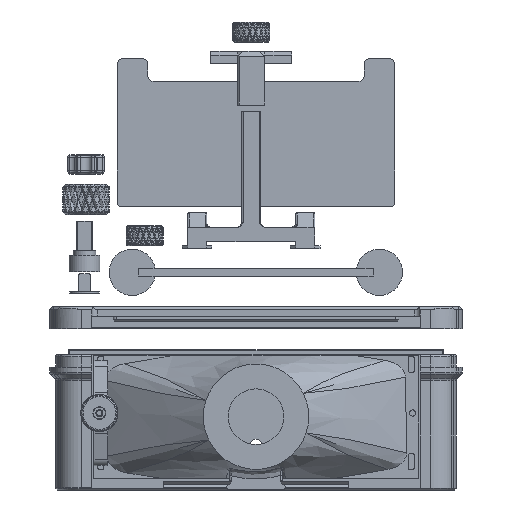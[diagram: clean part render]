
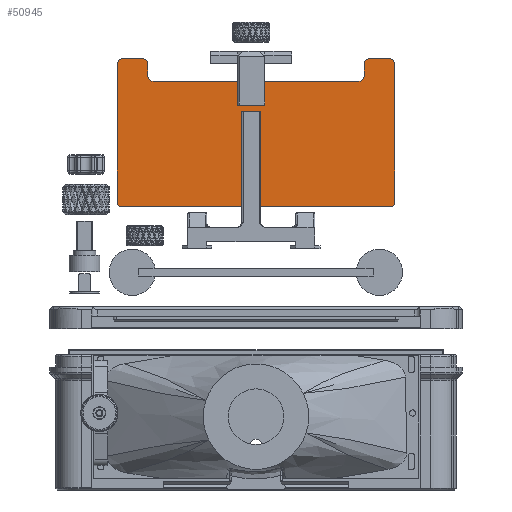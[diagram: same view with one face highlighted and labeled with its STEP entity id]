
A CAD part, left-side view. The second image highlights one B-rep face of the part: STEP entity #50945.
In plain terms, the highlighted planar face has unit normal (-1, 0, 0).
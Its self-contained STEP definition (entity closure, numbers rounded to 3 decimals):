
#5202=PLANE($,#55550);
#8142=FACE_OUTER_BOUND($,#11535,.T.);
#11535=EDGE_LOOP($,(#45359,#45360,#45361,#45362,#45363,#45364,#45365,#45366,
#45367,#45368,#45369,#45370,#45371,#45372,#45373,#45374));
#15141=LINE($,#93607,#18751);
#15151=LINE($,#93643,#18761);
#15155=LINE($,#93653,#18765);
#15158=LINE($,#93661,#18768);
#15160=LINE($,#93667,#18770);
#15163=LINE($,#93675,#18773);
#15166=LINE($,#93684,#18776);
#15168=LINE($,#93689,#18778);
#18751=VECTOR($,#67526,17.55);
#18761=VECTOR($,#67558,8.976);
#18765=VECTOR($,#67568,0.7);
#18768=VECTOR($,#67577,1.175);
#18770=VECTOR($,#67585,8.976);
#18773=VECTOR($,#67594,13.2);
#18776=VECTOR($,#67603,1.175);
#18778=VECTOR($,#67611,0.7);
#20398=CIRCLE($,#55519,0.2);
#20406=CIRCLE($,#55530,0.2);
#20407=CIRCLE($,#55533,0.4);
#20408=CIRCLE($,#55536,0.4);
#20409=CIRCLE($,#55539,0.4);
#20410=CIRCLE($,#55542,0.4);
#20411=CIRCLE($,#55545,0.4);
#20412=CIRCLE($,#55548,0.4);
#24491=VERTEX_POINT($,#93597);
#24492=VERTEX_POINT($,#93599);
#24494=VERTEX_POINT($,#93605);
#24508=VERTEX_POINT($,#93637);
#24509=VERTEX_POINT($,#93641);
#24510=VERTEX_POINT($,#93645);
#24511=VERTEX_POINT($,#93647);
#24512=VERTEX_POINT($,#93651);
#24513=VERTEX_POINT($,#93655);
#24514=VERTEX_POINT($,#93659);
#24515=VERTEX_POINT($,#93663);
#24516=VERTEX_POINT($,#93669);
#24517=VERTEX_POINT($,#93671);
#24518=VERTEX_POINT($,#93677);
#24519=VERTEX_POINT($,#93678);
#24520=VERTEX_POINT($,#93683);
#31500=EDGE_CURVE($,#24491,#24492,#20398,.T.);
#31504=EDGE_CURVE($,#24494,#24491,#15141,.T.);
#31519=EDGE_CURVE($,#24508,#24494,#20406,.T.);
#31522=EDGE_CURVE($,#24509,#24508,#15151,.T.);
#31524=EDGE_CURVE($,#24510,#24511,#20407,.T.);
#31527=EDGE_CURVE($,#24510,#24512,#15155,.T.);
#31529=EDGE_CURVE($,#24513,#24512,#20408,.T.);
#31531=EDGE_CURVE($,#24514,#24513,#15158,.F.);
#31532=EDGE_CURVE($,#24515,#24514,#20409,.T.);
#31534=EDGE_CURVE($,#24515,#24492,#15160,.F.);
#31536=EDGE_CURVE($,#24516,#24517,#20410,.T.);
#31538=EDGE_CURVE($,#24516,#24511,#15163,.T.);
#31539=EDGE_CURVE($,#24518,#24519,#20411,.T.);
#31542=EDGE_CURVE($,#24519,#24520,#15166,.F.);
#31544=EDGE_CURVE($,#24520,#24509,#20412,.T.);
#31545=EDGE_CURVE($,#24518,#24517,#15168,.T.);
#45359=ORIENTED_EDGE($,*,*,#31500,.F.);
#45360=ORIENTED_EDGE($,*,*,#31504,.F.);
#45361=ORIENTED_EDGE($,*,*,#31519,.F.);
#45362=ORIENTED_EDGE($,*,*,#31522,.F.);
#45363=ORIENTED_EDGE($,*,*,#31544,.F.);
#45364=ORIENTED_EDGE($,*,*,#31542,.F.);
#45365=ORIENTED_EDGE($,*,*,#31539,.F.);
#45366=ORIENTED_EDGE($,*,*,#31545,.T.);
#45367=ORIENTED_EDGE($,*,*,#31536,.F.);
#45368=ORIENTED_EDGE($,*,*,#31538,.T.);
#45369=ORIENTED_EDGE($,*,*,#31524,.F.);
#45370=ORIENTED_EDGE($,*,*,#31527,.T.);
#45371=ORIENTED_EDGE($,*,*,#31529,.F.);
#45372=ORIENTED_EDGE($,*,*,#31531,.F.);
#45373=ORIENTED_EDGE($,*,*,#31532,.F.);
#45374=ORIENTED_EDGE($,*,*,#31534,.T.);
#50945=ADVANCED_FACE($,(#8142),#5202,.F.);
#55519=AXIS2_PLACEMENT_3D($,#93600,#67519,#67520);
#55530=AXIS2_PLACEMENT_3D($,#93638,#67552,#67553);
#55533=AXIS2_PLACEMENT_3D($,#93648,#67562,#67563);
#55536=AXIS2_PLACEMENT_3D($,#93657,#67572,#67573);
#55539=AXIS2_PLACEMENT_3D($,#93664,#67580,#67581);
#55542=AXIS2_PLACEMENT_3D($,#93672,#67589,#67590);
#55545=AXIS2_PLACEMENT_3D($,#93679,#67597,#67598);
#55548=AXIS2_PLACEMENT_3D($,#93687,#67607,#67608);
#55550=AXIS2_PLACEMENT_3D($,#93690,#67612,#67613);
#67519=DIRECTION('center_axis',(1.,0.,0.));
#67520=DIRECTION('ref_axis',(0.,1.,0.));
#67526=DIRECTION($,(0.,1.,0.));
#67552=DIRECTION('center_axis',(1.,0.,0.));
#67553=DIRECTION('ref_axis',(0.,-1.,0.));
#67558=DIRECTION($,(0.,0.,-1.));
#67562=DIRECTION('center_axis',(-1.,0.,0.));
#67563=DIRECTION('ref_axis',(0.,0.707,-0.707));
#67568=DIRECTION($,(0.,0.,1.));
#67572=DIRECTION('center_axis',(1.,0.,0.));
#67573=DIRECTION('ref_axis',(0.,-0.707,0.707));
#67577=DIRECTION($,(0.,1.,0.));
#67580=DIRECTION('center_axis',(1.,0.,0.));
#67581=DIRECTION('ref_axis',(0.,0.707,0.707));
#67585=DIRECTION($,(0.,0.,1.));
#67589=DIRECTION('center_axis',(-1.,0.,0.));
#67590=DIRECTION('ref_axis',(0.,-0.707,-0.707));
#67594=DIRECTION($,(0.,1.,0.));
#67597=DIRECTION('center_axis',(1.,0.,0.));
#67598=DIRECTION('ref_axis',(0.,0.707,0.707));
#67603=DIRECTION($,(0.,1.,0.));
#67607=DIRECTION('center_axis',(1.,0.,0.));
#67608=DIRECTION('ref_axis',(0.,-0.707,0.707));
#67611=DIRECTION($,(0.,0.,-1.));
#67612=DIRECTION('center_axis',(1.,0.,0.));
#67613=DIRECTION('ref_axis',(0.,0.,-1.));
#93597=CARTESIAN_POINT('',(-6.472,25.669,19.525));
#93599=CARTESIAN_POINT('',(-6.472,25.869,19.725));
#93600=CARTESIAN_POINT('Origin',(-6.472,25.669,19.725));
#93605=CARTESIAN_POINT('',(-6.472,8.119,19.525));
#93607=CARTESIAN_POINT($,(-6.472,16.894,19.525));
#93637=CARTESIAN_POINT('',(-6.472,7.919,19.725));
#93638=CARTESIAN_POINT('Origin',(-6.472,8.119,19.725));
#93641=CARTESIAN_POINT('',(-6.472,7.919,28.701));
#93643=CARTESIAN_POINT($,(-6.472,7.919,22.6));
#93645=CARTESIAN_POINT('',(-6.472,23.894,28.001));
#93647=CARTESIAN_POINT('',(-6.472,23.494,27.601));
#93648=CARTESIAN_POINT('Origin',(-6.472,23.494,28.001));
#93651=CARTESIAN_POINT('',(-6.472,23.894,28.701));
#93653=CARTESIAN_POINT($,(-6.472,23.894,26.601));
#93655=CARTESIAN_POINT('',(-6.472,24.294,29.101));
#93657=CARTESIAN_POINT('Origin',(-6.472,24.294,28.701));
#93659=CARTESIAN_POINT('',(-6.472,25.469,29.101));
#93661=CARTESIAN_POINT($,(-6.472,16.894,29.101));
#93663=CARTESIAN_POINT('',(-6.472,25.869,28.701));
#93664=CARTESIAN_POINT('Origin',(-6.472,25.469,28.701));
#93667=CARTESIAN_POINT($,(-6.472,25.869,22.6));
#93669=CARTESIAN_POINT('',(-6.472,10.294,27.601));
#93671=CARTESIAN_POINT('',(-6.472,9.894,28.001));
#93672=CARTESIAN_POINT('Origin',(-6.472,10.294,28.001));
#93675=CARTESIAN_POINT($,(-6.472,16.894,27.601));
#93677=CARTESIAN_POINT('',(-6.472,9.894,28.701));
#93678=CARTESIAN_POINT('',(-6.472,9.494,29.101));
#93679=CARTESIAN_POINT('Origin',(-6.472,9.494,28.701));
#93683=CARTESIAN_POINT('',(-6.472,8.319,29.101));
#93684=CARTESIAN_POINT($,(-6.472,16.894,29.101));
#93687=CARTESIAN_POINT('Origin',(-6.472,8.319,28.701));
#93689=CARTESIAN_POINT($,(-6.472,9.894,26.601));
#93690=CARTESIAN_POINT('Origin',(-6.472,16.894,22.6));
